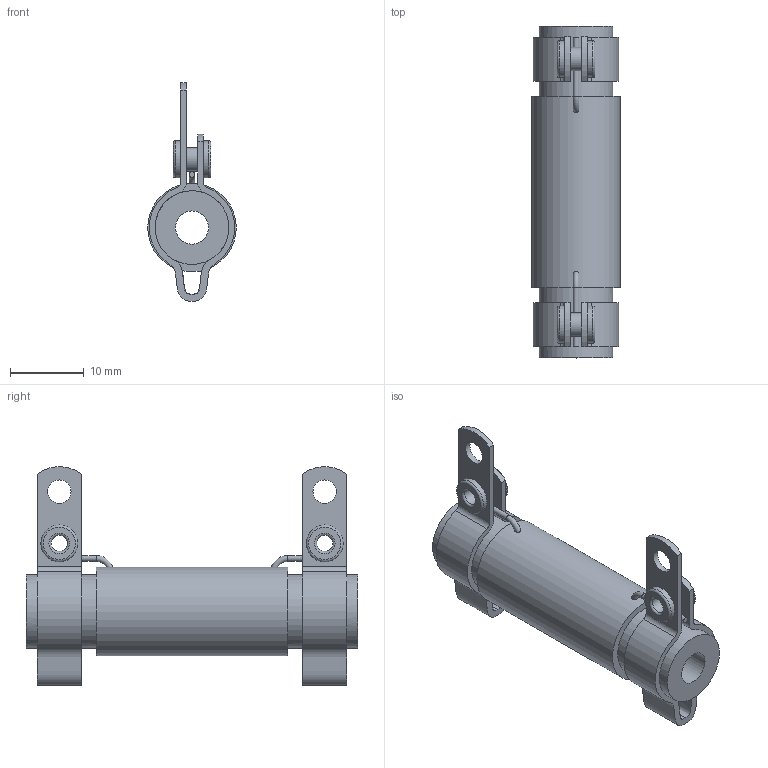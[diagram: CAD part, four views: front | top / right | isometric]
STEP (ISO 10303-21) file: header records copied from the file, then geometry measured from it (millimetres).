
FILE_DESCRIPTION(/* description */ (''),/* implementation_level */ '2;1');
FILE_NAME(/* name */ 'C:\_Vault\Dati\CATALOGO\RC-RS\TC\RS00015.stp',/* time_stamp */ '2014-01-22T17:30:12+01:00',/* author */ ('stefano'),/* organization */ (''),/* preprocessor_version */ 'ST-DEVELOPER v15.2',/* originating_system */ 'Autodesk Inventor 2014',/* authorisation */ '');
FILE_SCHEMA (('AUTOMOTIVE_DESIGN { 1 0 10303 214 3 1 1 }'));
Length unit declared in the file: millimetre
Products named in the file (1): RS00015
Bounding box: 12 x 45 x 29.65 mm (x, y, z)
Volume: 4347.9 mm3; surface area: 3683.8 mm2
Topology: 1 solids, 5 shells, 88 faces, 213 edges, 141 vertices
Faces by surface type: cylinder 38, plane 32, torus 10, bspline 8
Full cylindrical faces by diameter (mm): 0.4 x2, 0.8 x4, 2.2 x2, 3.2 x4, 4.5 x1, 5 x4, 10 x2, 12 x1
Entity records: 2989 total; most frequent: CARTESIAN_POINT 933, DIRECTION 398, ORIENTED_EDGE 340, AXIS2_PLACEMENT_3D 171, EDGE_CURVE 170, EDGE_LOOP 148, VERTEX_POINT 130, CIRCLE 90
